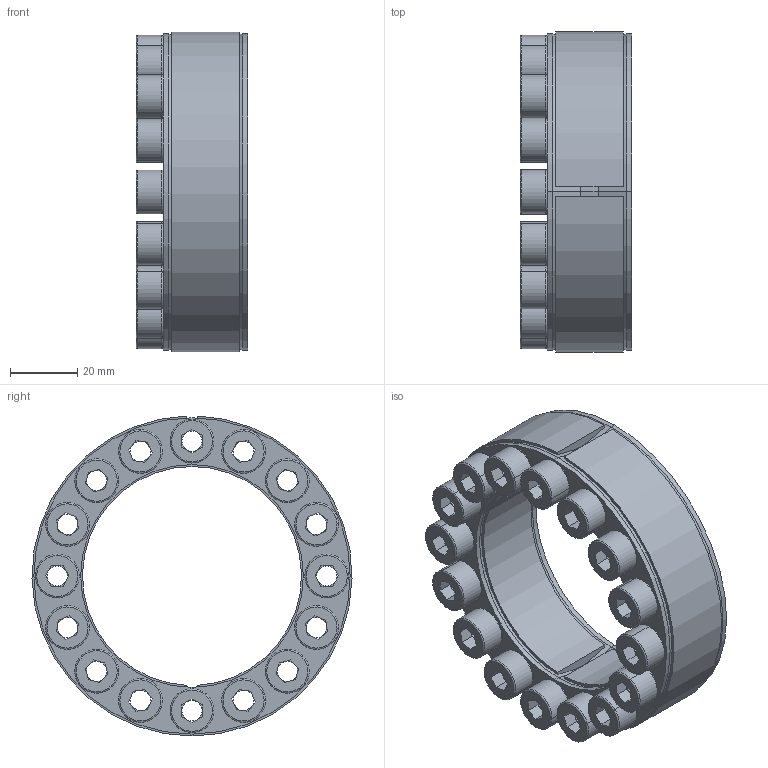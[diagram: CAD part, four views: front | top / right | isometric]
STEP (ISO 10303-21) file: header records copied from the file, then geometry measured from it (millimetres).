
FILE_DESCRIPTION (( 'STEP AP203' ), '1' );
FILE_NAME ('D1-65-95 Assy.STEP', '2017-10-11T05:18:00', ( 'MYCOM' ), ( '' ), 'SwSTEP 2.0', 'SolidWorks 2015', '' );
FILE_SCHEMA (( 'CONFIG_CONTROL_DESIGN' ));
Length unit declared in the file: millimetre
Products named in the file (1): D1-65-95 Assy
Bounding box: 33.2 x 94.99 x 94.98 mm (x, y, z)
Surface area: 42124.9 mm2 (no closed solid volume)
Topology: 0 solids, 20 shells, 380 faces, 1003 edges, 626 vertices
Faces by surface type: plane 201, cylinder 107, torus 64, cone 8
Entity records: 11892 total; most frequent: DIRECTION 2239, CARTESIAN_POINT 2052, ORIENTED_EDGE 1805, EDGE_CURVE 1003, AXIS2_PLACEMENT_3D 863, VERTEX_POINT 626, VECTOR 513, LINE 513
